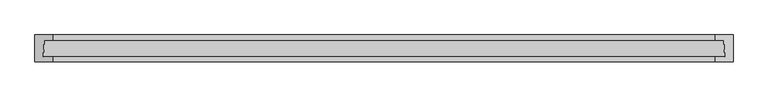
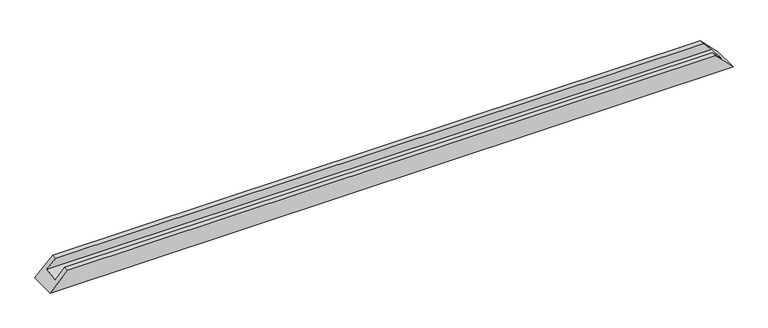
"""IFC4 building model written with IfcOpenShell, lengths in millimetres: proxy geometry, Weiku - Montante - Caixilho duplo 02.2.01.002 : Weiku - Montante - Caixilho duplo 02.2.01.002."""

from ifc_helpers import new_model, si_unit, origin, place, context, project, spatial, faceted_brep, source, transform, mapped, element, save


def generic_models_2824d3b9(model_context):
    return source(origin(), model_context, "Body", "Brep", [
        faceted_brep([(-971.0, -15.0, 26.0), (971.0, -15.0, 26.0), (945.0, -15.0, 52.0), (-945.0, -15.0, 52.0), (-973.2229744, -62.0, 23.7770256), (973.2229744, -62.0, 23.7770256), (-945.0, -62.0, 52.0), (945.0, -62.0, 52.0), (-945.0, -77.0, 52.0), (945.0, -77.0, 52.0), (997.0, -77.0, 0.0), (-997.0, -77.0, 0.0), (-997.0, 0.0, 0.0), (997.0, 0.0, 0.0), (-945.0, 0.0, 52.0), (945.0, 0.0, 52.0)], [[[0, 1, 2, 3]], [[4, 5, 1, 0]], [[6, 7, 5, 4]], [[8, 9, 7, 6]], [[10, 9, 8, 11]], [[11, 12, 13, 10]], [[12, 14, 15, 13]], [[3, 2, 15, 14]], [[3, 14, 12, 11, 8, 6, 4, 0]], [[1, 5, 7, 9, 10, 13, 15, 2]]]),
    ])


if __name__ == "__main__":
    model = new_model("IFC4")
    model_context = context("Model", 3, world=origin())
    ifc_project = project(units=[si_unit("LENGTHUNIT", "METRE", prefix="MILLI")], contexts=[model_context])
    site = spatial("IfcSite", under=ifc_project)
    building = spatial("IfcBuilding", under=site)
    placement = place(None, origin())
    generic_models_shape = generic_models_2824d3b9(model_context)
    element("IfcBuildingElementProxy", 1, Name="Weiku - Montante - Caixilho duplo 02.2.01.002 : Weiku - Montante - Caixilho duplo 02.2.01.002", ObjectType="Weiku - Montante - Caixilho duplo 02.2.01.002 : Weiku - Montante - Caixilho duplo 02.2.01.002", at=placement, inside=building, context=model_context, shape_type="MappedRepresentation", body=[
        mapped(generic_models_shape, transform((0.0, 0.0, 0.0), x_axis=(1.0, 0.0, 0.0), y_axis=(0.0, 1.0, 0.0), z_axis=(0.0, 0.0, 1.0))),
    ])
    save(model, "model.ifc")
